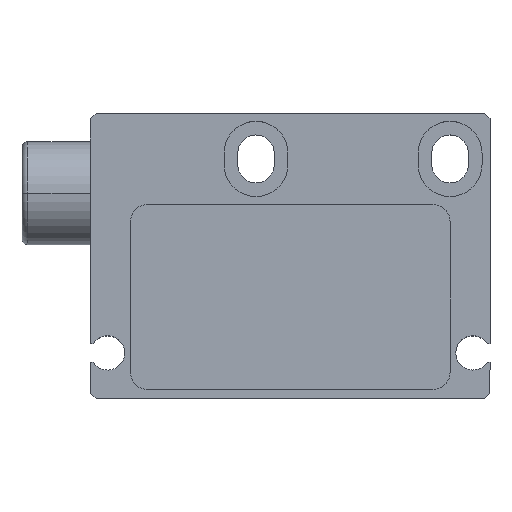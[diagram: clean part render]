
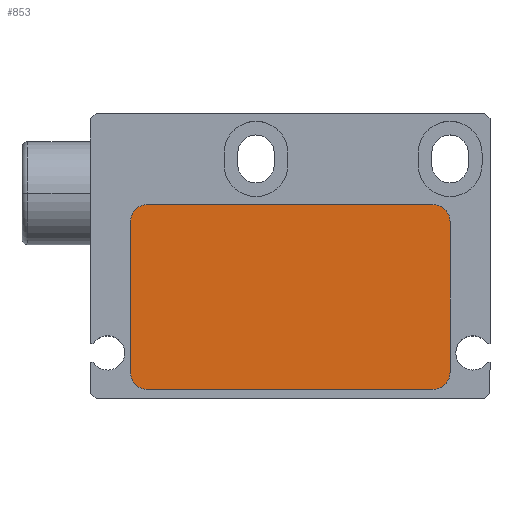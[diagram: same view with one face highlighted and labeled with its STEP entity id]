
A CAD part, top view. The second image highlights one B-rep face of the part: STEP entity #853.
In plain terms, the highlighted planar face has unit normal (0, 0, 1).
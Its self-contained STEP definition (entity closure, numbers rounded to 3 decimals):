
#2 = EDGE_CURVE ( 'NONE', #34, #39, #605, .T. ) ;
#13 = EDGE_CURVE ( 'NONE', #23, #31, #601, .T. ) ;
#23 = VERTEX_POINT ( 'NONE', #578 ) ;
#28 = EDGE_CURVE ( 'NONE', #31, #34, #623, .T. ) ;
#30 = VERTEX_POINT ( 'NONE', #629 ) ;
#31 = VERTEX_POINT ( 'NONE', #622 ) ;
#34 = VERTEX_POINT ( 'NONE', #615 ) ;
#37 = EDGE_CURVE ( 'NONE', #39, #407, #624, .T. ) ;
#39 = VERTEX_POINT ( 'NONE', #607 ) ;
#47 = ORIENTED_EDGE ( 'NONE', *, *, #28, .T. ) ;
#86 = ORIENTED_EDGE ( 'NONE', *, *, #2, .T. ) ;
#87 = ORIENTED_EDGE ( 'NONE', *, *, #308, .T. ) ;
#308 = EDGE_CURVE ( 'NONE', #407, #523, #1114, .T. ) ;
#407 = VERTEX_POINT ( 'NONE', #1299 ) ;
#515 = EDGE_CURVE ( 'NONE', #523, #521, #1455, .T. ) ;
#521 = VERTEX_POINT ( 'NONE', #1435 ) ;
#523 = VERTEX_POINT ( 'NONE', #1489 ) ;
#544 = PLANE ( 'NONE',  #810 ) ;
#578 = CARTESIAN_POINT ( 'NONE',  ( -14., 13.618, -0.2 ) ) ;
#583 = DIRECTION ( 'NONE',  ( 0., -1., 0. ) ) ;
#584 = VECTOR ( 'NONE', #583, 1000. ) ;
#585 = CARTESIAN_POINT ( 'NONE',  ( -14., 0.418, -0.2 ) ) ;
#601 = LINE ( 'NONE', #585, #584 ) ;
#602 = DIRECTION ( 'NONE',  ( 1., 0., 0. ) ) ;
#603 = VECTOR ( 'NONE', #602, 1000. ) ;
#604 = CARTESIAN_POINT ( 'NONE',  ( -12.5, -1.082, -0.2 ) ) ;
#605 = LINE ( 'NONE', #604, #603 ) ;
#607 = CARTESIAN_POINT ( 'NONE',  ( 12.5, -1.082, -0.2 ) ) ;
#612 = DIRECTION ( 'NONE',  ( -1., 0., 0. ) ) ;
#613 = DIRECTION ( 'NONE',  ( 0., 0., 1. ) ) ;
#614 = CARTESIAN_POINT ( 'NONE',  ( -12.5, 0.418, -0.2 ) ) ;
#615 = CARTESIAN_POINT ( 'NONE',  ( -12.5, -1.082, -0.2 ) ) ;
#622 = CARTESIAN_POINT ( 'NONE',  ( -14., 0.418, -0.2 ) ) ;
#623 = CIRCLE ( 'NONE', #632, 1.5 ) ;
#624 = CIRCLE ( 'NONE', #660, 1.5 ) ;
#629 = CARTESIAN_POINT ( 'NONE',  ( -12.5, 15.118, -0.2 ) ) ;
#632 = AXIS2_PLACEMENT_3D ( 'NONE', #614, #613, #612 ) ;
#657 = DIRECTION ( 'NONE',  ( -1., 0., 0. ) ) ;
#658 = DIRECTION ( 'NONE',  ( 0., 0., 1. ) ) ;
#659 = CARTESIAN_POINT ( 'NONE',  ( 12.5, 0.418, -0.2 ) ) ;
#660 = AXIS2_PLACEMENT_3D ( 'NONE', #659, #658, #657 ) ;
#764 = DIRECTION ( 'NONE',  ( -1., 0., 0. ) ) ;
#765 = DIRECTION ( 'NONE',  ( 0., 0., -1. ) ) ;
#810 = AXIS2_PLACEMENT_3D ( 'NONE', #823, #765, #764 ) ;
#823 = CARTESIAN_POINT ( 'NONE',  ( 12.5, 13.618, -0.2 ) ) ;
#840 = ORIENTED_EDGE ( 'NONE', *, *, #13, .T. ) ;
#841 = EDGE_LOOP ( 'NONE', ( #854, #856, #851, #840, #47, #86, #852, #87 ) ) ;
#846 = EDGE_CURVE ( 'NONE', #30, #23, #995, .T. ) ;
#851 = ORIENTED_EDGE ( 'NONE', *, *, #846, .T. ) ;
#852 = ORIENTED_EDGE ( 'NONE', *, *, #37, .T. ) ;
#853 = ADVANCED_FACE ( 'NONE', ( #1242 ), #544, .F. ) ;
#854 = ORIENTED_EDGE ( 'NONE', *, *, #515, .T. ) ;
#856 = ORIENTED_EDGE ( 'NONE', *, *, #862, .T. ) ;
#862 = EDGE_CURVE ( 'NONE', #521, #30, #1569, .T. ) ;
#994 = AXIS2_PLACEMENT_3D ( 'NONE', #1096, #1095, #1081 ) ;
#995 = CIRCLE ( 'NONE', #994, 1.5 ) ;
#1081 = DIRECTION ( 'NONE',  ( -1., 0., 0. ) ) ;
#1095 = DIRECTION ( 'NONE',  ( 0., 0., 1. ) ) ;
#1096 = CARTESIAN_POINT ( 'NONE',  ( -12.5, 13.618, -0.2 ) ) ;
#1111 = DIRECTION ( 'NONE',  ( 0., 1., 0. ) ) ;
#1112 = VECTOR ( 'NONE', #1111, 1000. ) ;
#1113 = CARTESIAN_POINT ( 'NONE',  ( 14., 4.418, -0.2 ) ) ;
#1114 = LINE ( 'NONE', #1113, #1112 ) ;
#1242 = FACE_OUTER_BOUND ( 'NONE', #841, .T. ) ;
#1299 = CARTESIAN_POINT ( 'NONE',  ( 14., 0.418, -0.2 ) ) ;
#1423 = AXIS2_PLACEMENT_3D ( 'NONE', #1454, #1453, #1496 ) ;
#1435 = CARTESIAN_POINT ( 'NONE',  ( 12.5, 15.118, -0.2 ) ) ;
#1453 = DIRECTION ( 'NONE',  ( 0., 0., 1. ) ) ;
#1454 = CARTESIAN_POINT ( 'NONE',  ( 12.5, 13.618, -0.2 ) ) ;
#1455 = CIRCLE ( 'NONE', #1423, 1.5 ) ;
#1489 = CARTESIAN_POINT ( 'NONE',  ( 14., 13.618, -0.2 ) ) ;
#1496 = DIRECTION ( 'NONE',  ( -1., 0., 0. ) ) ;
#1566 = DIRECTION ( 'NONE',  ( -1., 0., 0. ) ) ;
#1567 = VECTOR ( 'NONE', #1566, 1000. ) ;
#1568 = CARTESIAN_POINT ( 'NONE',  ( -12.5, 15.118, -0.2 ) ) ;
#1569 = LINE ( 'NONE', #1568, #1567 ) ;
